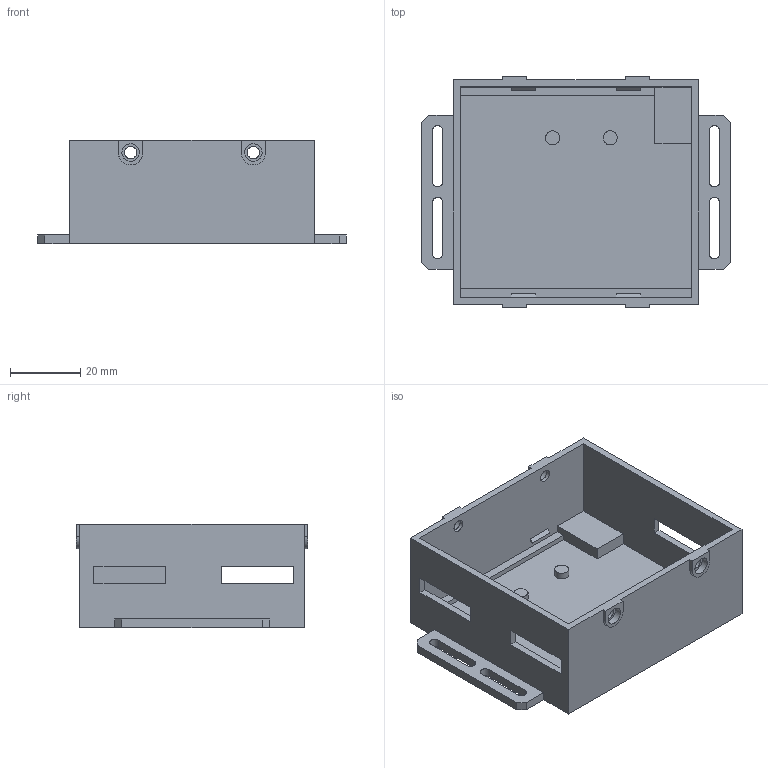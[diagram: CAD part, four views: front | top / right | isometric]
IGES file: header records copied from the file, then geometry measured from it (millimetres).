
Global section: file name: UntenNeu; native system: Autodesk Inventor 2020; preprocessor: unknown; author: Niklas; date: 20200907.165954; units: millimetre
Bounding box: 88 x 66 x 29.5 mm (x, y, z)
Volume: 27066 mm3; surface area: 25198.8 mm2
Topology: 1 solids, 1 shells, 106 faces, 299 edges, 206 vertices
Faces by surface type: bspline 106
